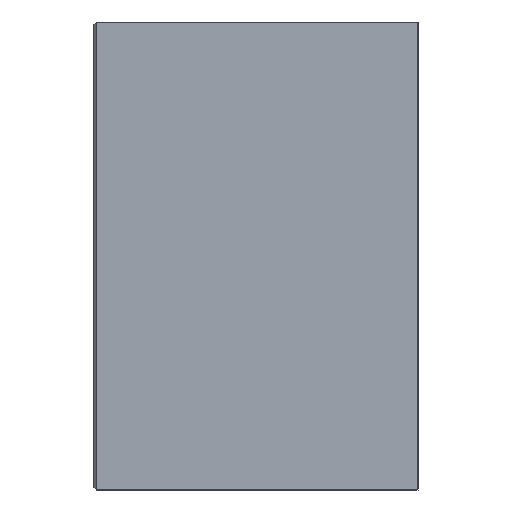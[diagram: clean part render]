
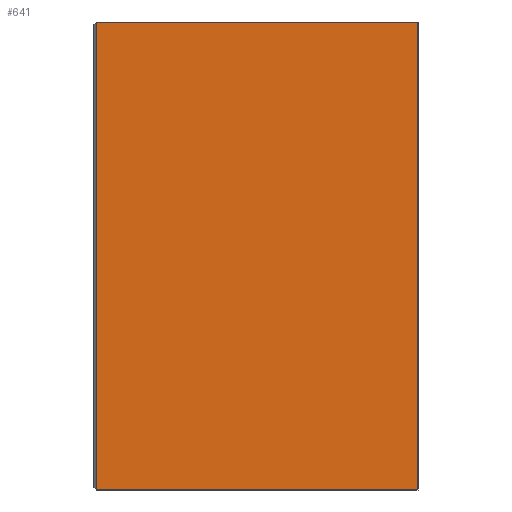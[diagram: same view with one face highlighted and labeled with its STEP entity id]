
A CAD part, left-side view. The second image highlights one B-rep face of the part: STEP entity #641.
In plain terms, the highlighted planar face has unit normal (-1, 0, 0).
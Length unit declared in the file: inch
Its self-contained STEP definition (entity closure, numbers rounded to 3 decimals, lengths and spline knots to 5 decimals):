
#9 = CARTESIAN_POINT ( 'NONE',  ( -2.475, 0., 0.975 ) ) ;
#69 = VERTEX_POINT ( 'NONE', #332 ) ;
#82 = DIRECTION ( 'NONE',  ( 0., 0., 1. ) ) ;
#118 = DIRECTION ( 'NONE',  ( 0., -1., 0. ) ) ;
#121 = DIRECTION ( 'NONE',  ( 0., 0., -1. ) ) ;
#122 = EDGE_CURVE ( 'NONE', #501, #289, #383, .T. ) ;
#136 = CARTESIAN_POINT ( 'NONE',  ( -2.475, 0., 0.975 ) ) ;
#146 = CARTESIAN_POINT ( 'NONE',  ( -2.475, 1.35, -0.975 ) ) ;
#196 = DIRECTION ( 'NONE',  ( 0., 0., -1. ) ) ;
#200 = DIRECTION ( 'NONE',  ( 1., 0., 0. ) ) ;
#207 = PLANE ( 'NONE',  #779 ) ;
#211 = CARTESIAN_POINT ( 'NONE',  ( -2.475, 1.35, 0.975 ) ) ;
#217 = EDGE_CURVE ( 'NONE', #69, #289, #577, .T. ) ;
#231 = CARTESIAN_POINT ( 'NONE',  ( -2.475, 1.35, 0.975 ) ) ;
#249 = EDGE_CURVE ( 'NONE', #501, #528, #631, .T. ) ;
#280 = CARTESIAN_POINT ( 'NONE',  ( -2.475, 1.34, -0.975 ) ) ;
#289 = VERTEX_POINT ( 'NONE', #136 ) ;
#294 = VECTOR ( 'NONE', #121, 39.37008 ) ;
#331 = LINE ( 'NONE', #146, #379 ) ;
#332 = CARTESIAN_POINT ( 'NONE',  ( -2.475, 0., -0.975 ) ) ;
#357 = VECTOR ( 'NONE', #487, 39.37008 ) ;
#376 = CARTESIAN_POINT ( 'NONE',  ( -2.475, 1.34, -0.975 ) ) ;
#379 = VECTOR ( 'NONE', #118, 39.37008 ) ;
#383 = LINE ( 'NONE', #211, #357 ) ;
#395 = FACE_OUTER_BOUND ( 'NONE', #474, .T. ) ;
#424 = ORIENTED_EDGE ( 'NONE', *, *, #122, .F. ) ;
#474 = EDGE_LOOP ( 'NONE', ( #424, #739, #491, #596 ) ) ;
#487 = DIRECTION ( 'NONE',  ( 0., -1., 0. ) ) ;
#491 = ORIENTED_EDGE ( 'NONE', *, *, #665, .T. ) ;
#501 = VERTEX_POINT ( 'NONE', #502 ) ;
#502 = CARTESIAN_POINT ( 'NONE',  ( -2.475, 1.34, 0.975 ) ) ;
#528 = VERTEX_POINT ( 'NONE', #376 ) ;
#577 = LINE ( 'NONE', #9, #587 ) ;
#587 = VECTOR ( 'NONE', #82, 39.37008 ) ;
#596 = ORIENTED_EDGE ( 'NONE', *, *, #217, .T. ) ;
#631 = LINE ( 'NONE', #280, #294 ) ;
#641 = ADVANCED_FACE ( 'NONE', ( #395 ), #207, .F. ) ;
#665 = EDGE_CURVE ( 'NONE', #528, #69, #331, .T. ) ;
#739 = ORIENTED_EDGE ( 'NONE', *, *, #249, .T. ) ;
#779 = AXIS2_PLACEMENT_3D ( 'NONE', #231, #200, #196 ) ;
